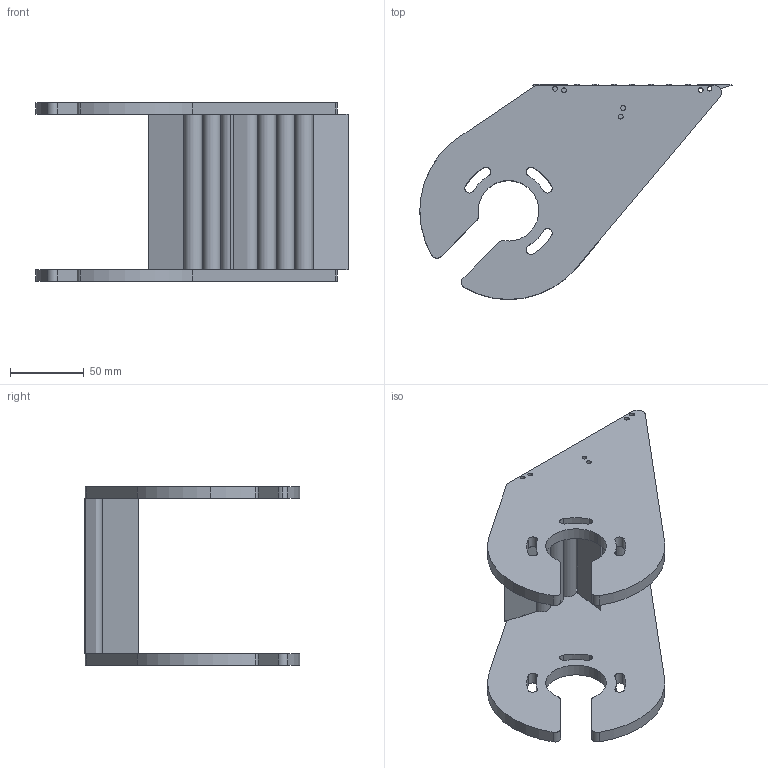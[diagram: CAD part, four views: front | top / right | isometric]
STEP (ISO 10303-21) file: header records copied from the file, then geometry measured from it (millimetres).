
FILE_DESCRIPTION (( 'STEP AP214' ), '1' );
FILE_NAME ('FCTB A105FI.STEP', '2024-01-31T08:47:59', ( '' ), ( '' ), 'SwSTEP 2.0', 'SolidWorks 2022', '' );
FILE_SCHEMA (( 'AUTOMOTIVE_DESIGN' ));
Length unit declared in the file: millimetre
Products named in the file (1): FCTB A105FI
Bounding box: 211.28 x 145.6 x 121 mm (x, y, z)
Volume: 363676.7 mm3; surface area: 125388.5 mm2
Topology: 1 solids, 1 shells, 226 faces, 660 edges, 428 vertices
Faces by surface type: cylinder 132, plane 94
Entity records: 8224 total; most frequent: DIRECTION 1410, ORIENTED_EDGE 1320, CARTESIAN_POINT 1315, EDGE_CURVE 660, AXIS2_PLACEMENT_3D 523, VERTEX_POINT 428, LINE 364, VECTOR 364
